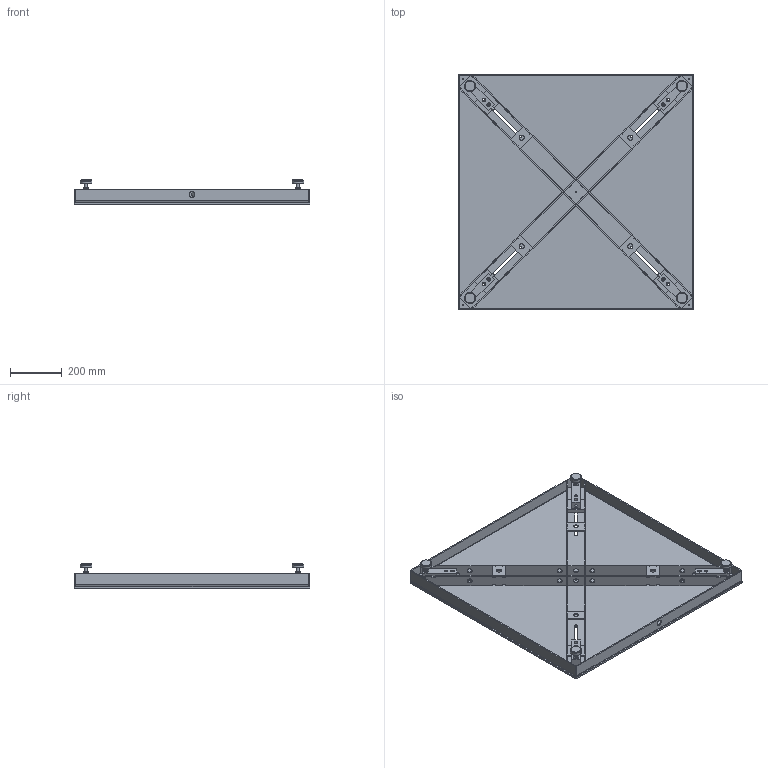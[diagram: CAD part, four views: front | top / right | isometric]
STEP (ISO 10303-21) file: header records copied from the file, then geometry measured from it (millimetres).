
FILE_DESCRIPTION (( 'STEP AP214' ), '1' );
FILE_NAME ('4040-36.STEP', '2022-07-19T19:59:39', ( '' ), ( '' ), 'SwSTEP 2.0', 'SolidWorks 2019', '' );
FILE_SCHEMA (( 'AUTOMOTIVE_DESIGN' ));
Length unit declared in the file: inch
Products named in the file (1): 4040-36
Bounding box: 914.4 x 914.4 x 94.82 mm (x, y, z)
Volume: 12063502.9 mm3; surface area: 4444737.4 mm2
Topology: 34 solids, 34 shells, 907 faces, 2381 edges, 1558 vertices
Faces by surface type: plane 540, cylinder 283, cone 64, bspline 20
Full cylindrical faces by diameter (mm): 5.105 x5, 7.937 x5, 7.938 x4, 10.716 x12, 10.77 x4, 11.11 x4, 11.509 x4, 12.667 x4, 13.335 x8, 19.05 x24, 19.304 x4, 22.86 x1, 37.973 x4, 38.481 x4, 44.45 x4
Entity records: 46432 total; most frequent: CARTESIAN_POINT 11880, ORIENTED_EDGE 4532, DIRECTION 4492, EDGE_CURVE 2266, VERTEX_POINT 1542, AXIS2_PLACEMENT_3D 1502, LINE 1488, VECTOR 1488
